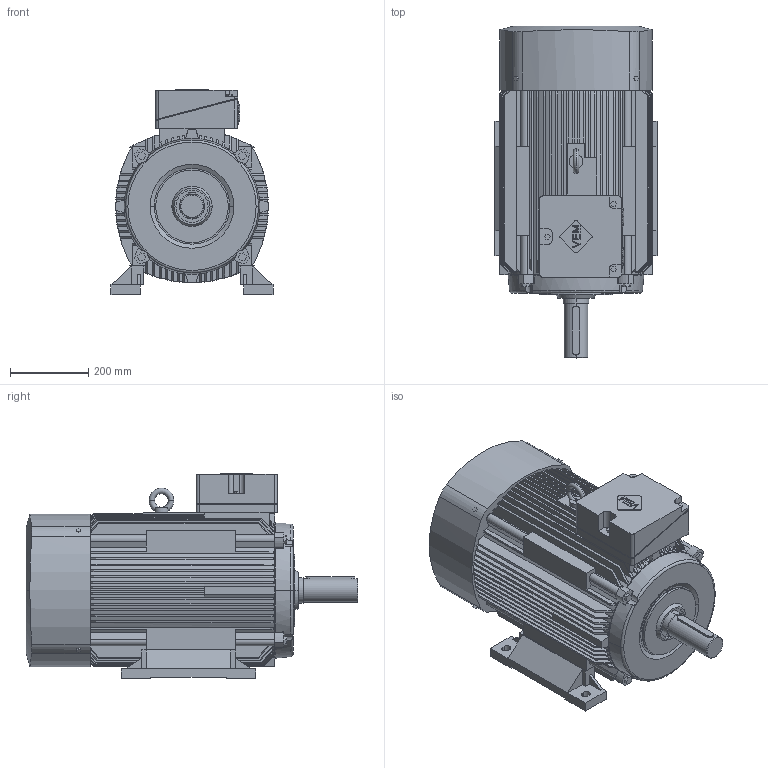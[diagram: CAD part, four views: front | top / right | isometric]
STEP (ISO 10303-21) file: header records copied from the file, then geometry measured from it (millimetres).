
FILE_DESCRIPTION(('STEP AP214'),'1');
FILE_NAME('cctmp_A513CCBF-68EE-4D6F-A4D8-01FBED8C4914_2026_02_06_09_57_02_0697..stp','2026-02-06T08:57:03',('VEM motors GmbH'),('CADClick - www.CADClick.com'),'Spatial InterOp 3D postprocessed',' ','unknown authorization');
FILE_SCHEMA(('AUTOMOTIVE_DESIGN'));
Length unit declared in the file: millimetre
Products named in the file (1): 1
Bounding box: 413 x 846 x 523 mm (x, y, z)
Volume: 81910541.1 mm3; surface area: 2758856.7 mm2
Topology: 5 solids, 6 shells, 766 faces, 2158 edges, 1426 vertices
Faces by surface type: plane 450, cylinder 178, cone 124, torus 10, bspline 4
Entity records: 30681 total; most frequent: CARTESIAN_POINT 9043, ORIENTED_EDGE 4316, DIRECTION 3772, EDGE_CURVE 2158, VERTEX_POINT 1426, LINE 1306, VECTOR 1306, AXIS2_PLACEMENT_3D 1233
